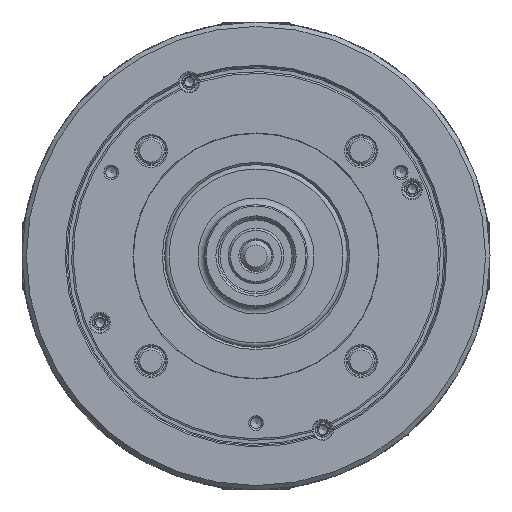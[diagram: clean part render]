
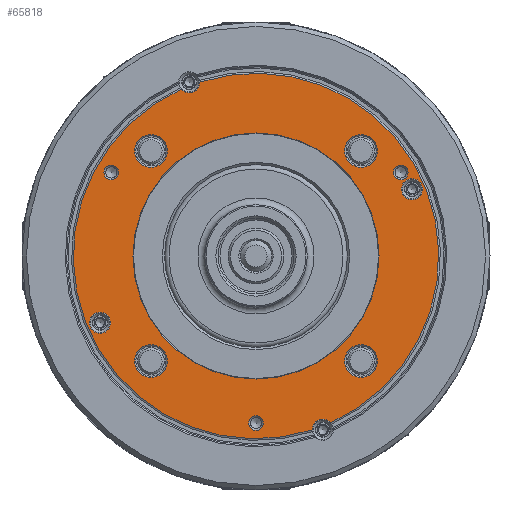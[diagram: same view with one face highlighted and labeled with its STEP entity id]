
A CAD part, left-side view. The second image highlights one B-rep face of the part: STEP entity #65818.
In plain terms, the highlighted planar face has unit normal (-1, 0, 0).
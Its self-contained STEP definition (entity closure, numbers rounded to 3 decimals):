
#93 = CARTESIAN_POINT ( 'NONE',  ( -86., 0., 0. ) ) ;
#344 = ORIENTED_EDGE ( 'NONE', *, *, #27252, .T. ) ;
#960 = DIRECTION ( 'NONE',  ( 0., -1., 0. ) ) ;
#1380 = AXIS2_PLACEMENT_3D ( 'NONE', #35888, #69845, #20233 ) ;
#1888 = CIRCLE ( 'NONE', #79518, 4.75 ) ;
#4675 = FACE_BOUND ( 'NONE', #31540, .T. ) ;
#5021 = VERTEX_POINT ( 'NONE', #42607 ) ;
#5203 = DIRECTION ( 'NONE',  ( 0., 1., 0. ) ) ;
#5344 = CARTESIAN_POINT ( 'NONE',  ( -86., -68.252, 37.5 ) ) ;
#5522 = ORIENTED_EDGE ( 'NONE', *, *, #29001, .F. ) ;
#6282 = DIRECTION ( 'NONE',  ( 0., 1., 0. ) ) ;
#6641 = DIRECTION ( 'NONE',  ( 0., 1., 0. ) ) ;
#6663 = VERTEX_POINT ( 'NONE', #76344 ) ;
#7956 = ORIENTED_EDGE ( 'NONE', *, *, #33253, .T. ) ;
#9072 = CARTESIAN_POINT ( 'NONE',  ( -86., 0., -75. ) ) ;
#9217 = ORIENTED_EDGE ( 'NONE', *, *, #101307, .T. ) ;
#10018 = VERTEX_POINT ( 'NONE', #25677 ) ;
#10306 = DIRECTION ( 'NONE',  ( 1., 0., 0. ) ) ;
#11032 = CARTESIAN_POINT ( 'NONE',  ( -86., -30., -78. ) ) ;
#11740 = CARTESIAN_POINT ( 'NONE',  ( -86., 54.514, 47.164 ) ) ;
#12013 = AXIS2_PLACEMENT_3D ( 'NONE', #49273, #24447, #67564 ) ;
#12633 = DIRECTION ( 'NONE',  ( 1., 0., 0. ) ) ;
#12751 = FACE_BOUND ( 'NONE', #45889, .T. ) ;
#12932 = EDGE_CURVE ( 'NONE', #6663, #17331, #57983, .T. ) ;
#14844 = CIRCLE ( 'NONE', #75144, 82. ) ;
#15361 = EDGE_LOOP ( 'NONE', ( #51583 ) ) ;
#16111 = VERTEX_POINT ( 'NONE', #90594 ) ;
#16301 = DIRECTION ( 'NONE',  ( 1., 0., 0. ) ) ;
#17331 = VERTEX_POINT ( 'NONE', #95888 ) ;
#17399 = AXIS2_PLACEMENT_3D ( 'NONE', #62788, #62257, #88187 ) ;
#17459 = ORIENTED_EDGE ( 'NONE', *, *, #17767, .F. ) ;
#17694 = CIRCLE ( 'NONE', #45282, 3.3 ) ;
#17767 = EDGE_CURVE ( 'NONE', #45760, #5021, #14844, .T. ) ;
#18883 = DIRECTION ( 'NONE',  ( 1., 0., 0. ) ) ;
#19081 = AXIS2_PLACEMENT_3D ( 'NONE', #92359, #10306, #43775 ) ;
#20233 = DIRECTION ( 'NONE',  ( 0., -1., 0. ) ) ;
#21396 = FACE_OUTER_BOUND ( 'NONE', #53056, .T. ) ;
#21977 = DIRECTION ( 'NONE',  ( 1., 0., 0. ) ) ;
#22638 = CARTESIAN_POINT ( 'NONE',  ( -86., 74.75, -30. ) ) ;
#24341 = AXIS2_PLACEMENT_3D ( 'NONE', #30027, #80230, #6282 ) ;
#24447 = DIRECTION ( 'NONE',  ( 1., 0., 0. ) ) ;
#25677 = CARTESIAN_POINT ( 'NONE',  ( -86., -65.25, 30. ) ) ;
#27252 = EDGE_CURVE ( 'NONE', #87436, #87436, #64024, .T. ) ;
#27254 = EDGE_CURVE ( 'NONE', #45760, #17331, #1888, .T. ) ;
#27281 = CARTESIAN_POINT ( 'NONE',  ( -86., 61.652, 37.5 ) ) ;
#27393 = CARTESIAN_POINT ( 'NONE',  ( -86., 54.514, -47.164 ) ) ;
#27928 = VERTEX_POINT ( 'NONE', #27393 ) ;
#28094 = DIRECTION ( 'NONE',  ( 0., 1., 0. ) ) ;
#28623 = DIRECTION ( 'NONE',  ( 1., 0., 0. ) ) ;
#29001 = EDGE_CURVE ( 'NONE', #94447, #94447, #17694, .T. ) ;
#30005 = DIRECTION ( 'NONE',  ( 1., 0., 0. ) ) ;
#30027 = CARTESIAN_POINT ( 'NONE',  ( -86., 70., -30. ) ) ;
#30341 = AXIS2_PLACEMENT_3D ( 'NONE', #9072, #74390, #960 ) ;
#30687 = ORIENTED_EDGE ( 'NONE', *, *, #95782, .F. ) ;
#30744 = EDGE_LOOP ( 'NONE', ( #58649 ) ) ;
#31540 = EDGE_LOOP ( 'NONE', ( #54112 ) ) ;
#33253 = EDGE_CURVE ( 'NONE', #33351, #33351, #89309, .T. ) ;
#33351 = VERTEX_POINT ( 'NONE', #97641 ) ;
#34967 = VERTEX_POINT ( 'NONE', #11740 ) ;
#35587 = DIRECTION ( 'NONE',  ( 0., 1., 0. ) ) ;
#35888 = CARTESIAN_POINT ( 'NONE',  ( -86., 64.952, 37.5 ) ) ;
#36879 = EDGE_LOOP ( 'NONE', ( #5522 ) ) ;
#36926 = DIRECTION ( 'NONE',  ( 0., 1., 0. ) ) ;
#37705 = AXIS2_PLACEMENT_3D ( 'NONE', #100910, #18883, #51796 ) ;
#38128 = FACE_BOUND ( 'NONE', #55706, .T. ) ;
#38858 = EDGE_CURVE ( 'NONE', #16111, #16111, #86340, .T. ) ;
#39017 = AXIS2_PLACEMENT_3D ( 'NONE', #47675, #105960, #6641 ) ;
#39078 = AXIS2_PLACEMENT_3D ( 'NONE', #63371, #12633, #102269 ) ;
#42303 = EDGE_LOOP ( 'NONE', ( #70811 ) ) ;
#42607 = CARTESIAN_POINT ( 'NONE',  ( -86., -33.536, -74.829 ) ) ;
#42739 = AXIS2_PLACEMENT_3D ( 'NONE', #93, #16301, #73542 ) ;
#43427 = EDGE_CURVE ( 'NONE', #6663, #5021, #68009, .T. ) ;
#43775 = DIRECTION ( 'NONE',  ( 0., 1., 0. ) ) ;
#43926 = AXIS2_PLACEMENT_3D ( 'NONE', #11032, #101709, #36926 ) ;
#45282 = AXIS2_PLACEMENT_3D ( 'NONE', #61527, #79326, #69622 ) ;
#45361 = CARTESIAN_POINT ( 'NONE',  ( -86., 0., 0. ) ) ;
#45679 = FACE_BOUND ( 'NONE', #30744, .T. ) ;
#45760 = VERTEX_POINT ( 'NONE', #98978 ) ;
#45889 = EDGE_LOOP ( 'NONE', ( #30687 ) ) ;
#46223 = FACE_BOUND ( 'NONE', #87061, .T. ) ;
#47675 = CARTESIAN_POINT ( 'NONE',  ( -86., -70., 30. ) ) ;
#49273 = CARTESIAN_POINT ( 'NONE',  ( -86., 47.164, -47.164 ) ) ;
#51583 = ORIENTED_EDGE ( 'NONE', *, *, #58158, .F. ) ;
#51796 = DIRECTION ( 'NONE',  ( 0., 1., 0. ) ) ;
#52333 = EDGE_CURVE ( 'NONE', #34967, #34967, #84220, .T. ) ;
#53056 = EDGE_LOOP ( 'NONE', ( #17459, #59253, #70982, #96481 ) ) ;
#53849 = EDGE_CURVE ( 'NONE', #27928, #27928, #96562, .T. ) ;
#54112 = ORIENTED_EDGE ( 'NONE', *, *, #53849, .T. ) ;
#54839 = FACE_BOUND ( 'NONE', #15361, .T. ) ;
#55706 = EDGE_LOOP ( 'NONE', ( #9217 ) ) ;
#57983 = CIRCLE ( 'NONE', #39078, 82. ) ;
#58158 = EDGE_CURVE ( 'NONE', #75973, #75973, #95863, .T. ) ;
#58649 = ORIENTED_EDGE ( 'NONE', *, *, #38858, .T. ) ;
#59253 = ORIENTED_EDGE ( 'NONE', *, *, #27254, .T. ) ;
#59644 = CARTESIAN_POINT ( 'NONE',  ( -86., -39.814, -47.164 ) ) ;
#59713 = CIRCLE ( 'NONE', #39017, 4.75 ) ;
#60840 = CARTESIAN_POINT ( 'NONE',  ( -86., -3.3, -75. ) ) ;
#61527 = CARTESIAN_POINT ( 'NONE',  ( -86., -64.952, 37.5 ) ) ;
#62257 = DIRECTION ( 'NONE',  ( 1., 0., 0. ) ) ;
#62788 = CARTESIAN_POINT ( 'NONE',  ( -86., -47.164, -47.164 ) ) ;
#62924 = FACE_BOUND ( 'NONE', #36879, .T. ) ;
#63371 = CARTESIAN_POINT ( 'NONE',  ( -86., 0., 0. ) ) ;
#63485 = FACE_BOUND ( 'NONE', #42303, .T. ) ;
#63822 = EDGE_LOOP ( 'NONE', ( #7956 ) ) ;
#63935 = CIRCLE ( 'NONE', #17399, 7.35 ) ;
#64024 = CIRCLE ( 'NONE', #24341, 4.75 ) ;
#65818 = ADVANCED_FACE ( 'NONE', ( #46223, #63485, #54839, #12751, #62924, #70497, #4675, #38128, #45679, #21396, #101442 ), #103449, .F. ) ;
#67564 = DIRECTION ( 'NONE',  ( 0., 1., 0. ) ) ;
#67739 = VERTEX_POINT ( 'NONE', #59644 ) ;
#68009 = CIRCLE ( 'NONE', #43926, 4.75 ) ;
#69622 = DIRECTION ( 'NONE',  ( 0., -1., 0. ) ) ;
#69845 = DIRECTION ( 'NONE',  ( -1., 0., 0. ) ) ;
#70497 = FACE_BOUND ( 'NONE', #98909, .T. ) ;
#70811 = ORIENTED_EDGE ( 'NONE', *, *, #93254, .T. ) ;
#70982 = ORIENTED_EDGE ( 'NONE', *, *, #12932, .F. ) ;
#72138 = CARTESIAN_POINT ( 'NONE',  ( -86., 30., 78. ) ) ;
#73542 = DIRECTION ( 'NONE',  ( 0., 1., 0. ) ) ;
#74390 = DIRECTION ( 'NONE',  ( -1., 0., 0. ) ) ;
#75144 = AXIS2_PLACEMENT_3D ( 'NONE', #45361, #28623, #28094 ) ;
#75973 = VERTEX_POINT ( 'NONE', #60840 ) ;
#76344 = CARTESIAN_POINT ( 'NONE',  ( -86., -25.25, -78.016 ) ) ;
#79326 = DIRECTION ( 'NONE',  ( -1., 0., 0. ) ) ;
#79518 = AXIS2_PLACEMENT_3D ( 'NONE', #72138, #21977, #5203 ) ;
#80230 = DIRECTION ( 'NONE',  ( 1., 0., 0. ) ) ;
#80734 = ORIENTED_EDGE ( 'NONE', *, *, #52333, .T. ) ;
#83409 = VERTEX_POINT ( 'NONE', #27281 ) ;
#84220 = CIRCLE ( 'NONE', #37705, 7.35 ) ;
#84714 = CARTESIAN_POINT ( 'NONE',  ( -86., 0., -82. ) ) ;
#85859 = CIRCLE ( 'NONE', #1380, 3.3 ) ;
#86340 = CIRCLE ( 'NONE', #19081, 7.35 ) ;
#87061 = EDGE_LOOP ( 'NONE', ( #344 ) ) ;
#87436 = VERTEX_POINT ( 'NONE', #22638 ) ;
#88187 = DIRECTION ( 'NONE',  ( 0., 1., 0. ) ) ;
#89309 = CIRCLE ( 'NONE', #42739, 55.2 ) ;
#90594 = CARTESIAN_POINT ( 'NONE',  ( -86., -39.814, 47.164 ) ) ;
#92359 = CARTESIAN_POINT ( 'NONE',  ( -86., -47.164, 47.164 ) ) ;
#93254 = EDGE_CURVE ( 'NONE', #10018, #10018, #59713, .T. ) ;
#94447 = VERTEX_POINT ( 'NONE', #5344 ) ;
#95782 = EDGE_CURVE ( 'NONE', #83409, #83409, #85859, .T. ) ;
#95863 = CIRCLE ( 'NONE', #30341, 3.3 ) ;
#95888 = CARTESIAN_POINT ( 'NONE',  ( -86., 33.536, 74.829 ) ) ;
#96481 = ORIENTED_EDGE ( 'NONE', *, *, #43427, .T. ) ;
#96562 = CIRCLE ( 'NONE', #12013, 7.35 ) ;
#97641 = CARTESIAN_POINT ( 'NONE',  ( -86., 55.2, 0. ) ) ;
#98909 = EDGE_LOOP ( 'NONE', ( #80734 ) ) ;
#98978 = CARTESIAN_POINT ( 'NONE',  ( -86., 25.25, 78.016 ) ) ;
#99979 = AXIS2_PLACEMENT_3D ( 'NONE', #84714, #30005, #35587 ) ;
#100910 = CARTESIAN_POINT ( 'NONE',  ( -86., 47.164, 47.164 ) ) ;
#101307 = EDGE_CURVE ( 'NONE', #67739, #67739, #63935, .T. ) ;
#101442 = FACE_BOUND ( 'NONE', #63822, .T. ) ;
#101709 = DIRECTION ( 'NONE',  ( 1., 0., 0. ) ) ;
#102269 = DIRECTION ( 'NONE',  ( 0., 1., 0. ) ) ;
#103449 = PLANE ( 'NONE',  #99979 ) ;
#105960 = DIRECTION ( 'NONE',  ( 1., 0., 0. ) ) ;
